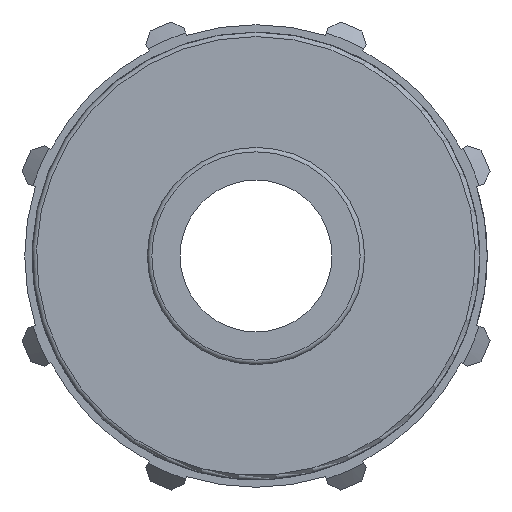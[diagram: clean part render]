
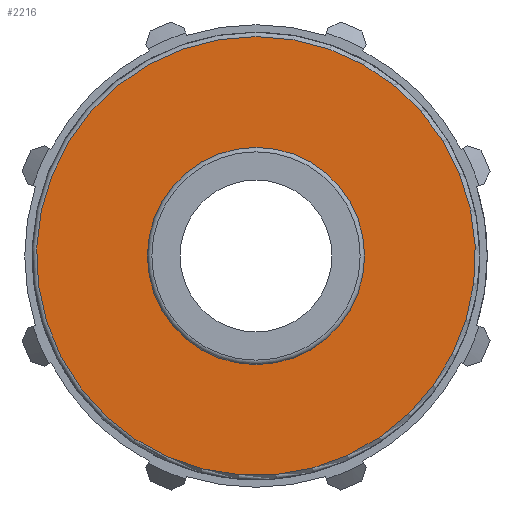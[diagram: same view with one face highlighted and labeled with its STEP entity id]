
A CAD part, left-side view. The second image highlights one B-rep face of the part: STEP entity #2216.
In plain terms, the highlighted planar face has unit normal (-1, 0, 0).
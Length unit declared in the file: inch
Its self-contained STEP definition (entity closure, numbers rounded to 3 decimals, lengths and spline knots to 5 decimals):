
#422=FACE_BOUND('',#639,.T.);
#435=PLANE('',#2401);
#514=FACE_OUTER_BOUND('',#638,.T.);
#638=EDGE_LOOP('',(#1534,#1535));
#639=EDGE_LOOP('',(#1536,#1537));
#746=CIRCLE('',#2341,0.4125);
#747=CIRCLE('',#2342,0.4125);
#784=CIRCLE('',#2399,0.83381);
#785=CIRCLE('',#2400,0.83381);
#863=VERTEX_POINT('',#3209);
#864=VERTEX_POINT('',#3210);
#930=VERTEX_POINT('',#3599);
#931=VERTEX_POINT('',#3601);
#1087=EDGE_CURVE('',#863,#864,#746,.T.);
#1088=EDGE_CURVE('',#864,#863,#747,.T.);
#1175=EDGE_CURVE('',#930,#931,#784,.T.);
#1176=EDGE_CURVE('',#931,#930,#785,.T.);
#1534=ORIENTED_EDGE('',*,*,#1176,.F.);
#1535=ORIENTED_EDGE('',*,*,#1175,.F.);
#1536=ORIENTED_EDGE('',*,*,#1087,.T.);
#1537=ORIENTED_EDGE('',*,*,#1088,.T.);
#2216=ADVANCED_FACE('',(#514,#422),#435,.T.);
#2341=AXIS2_PLACEMENT_3D('',#3211,#2589,#2590);
#2342=AXIS2_PLACEMENT_3D('',#3212,#2591,#2592);
#2399=AXIS2_PLACEMENT_3D('',#3602,#2731,#2732);
#2400=AXIS2_PLACEMENT_3D('',#3603,#2733,#2734);
#2401=AXIS2_PLACEMENT_3D('',#3604,#2735,#2736);
#2589=DIRECTION('center_axis',(1.,0.,0.));
#2590=DIRECTION('ref_axis',(0.,0.,-1.));
#2591=DIRECTION('center_axis',(1.,0.,0.));
#2592=DIRECTION('ref_axis',(0.,0.,-1.));
#2731=DIRECTION('center_axis',(1.,0.,0.));
#2732=DIRECTION('ref_axis',(0.,-0.552,0.834));
#2733=DIRECTION('center_axis',(1.,0.,0.));
#2734=DIRECTION('ref_axis',(0.,-0.552,0.834));
#2735=DIRECTION('center_axis',(-1.,0.,0.));
#2736=DIRECTION('ref_axis',(0.,0.,1.));
#3209=CARTESIAN_POINT('',(0.67,0.4125,0.));
#3210=CARTESIAN_POINT('',(0.67,-0.4125,0.));
#3211=CARTESIAN_POINT('Origin',(0.67,0.,0.));
#3212=CARTESIAN_POINT('Origin',(0.67,0.,0.));
#3599=CARTESIAN_POINT('',(0.67,0.,0.83381));
#3601=CARTESIAN_POINT('',(0.67,0.46003,-0.69542));
#3602=CARTESIAN_POINT('Origin',(0.67,0.,0.));
#3603=CARTESIAN_POINT('Origin',(0.67,0.,0.));
#3604=CARTESIAN_POINT('Origin',(0.67,0.8505,0.));
